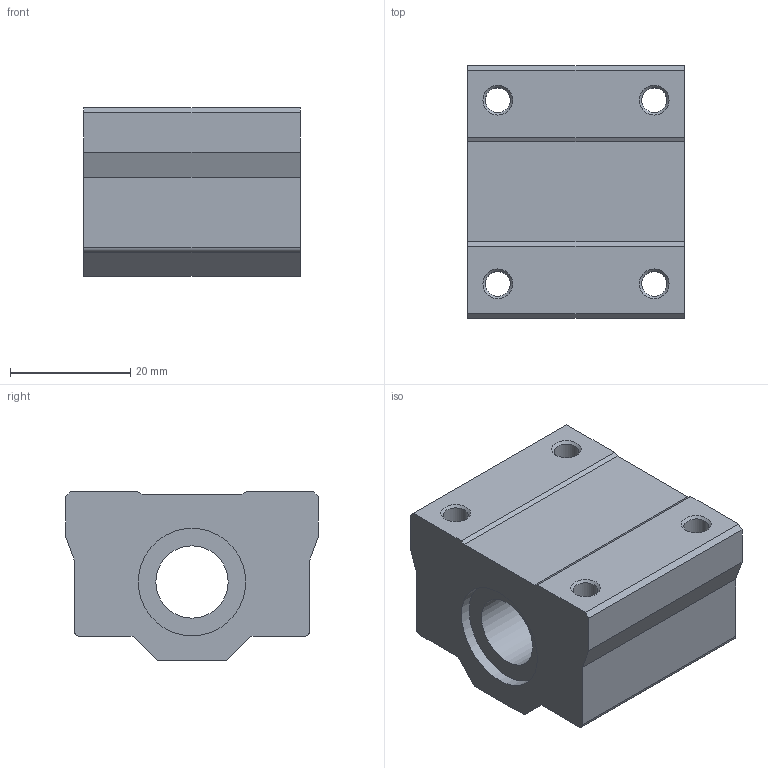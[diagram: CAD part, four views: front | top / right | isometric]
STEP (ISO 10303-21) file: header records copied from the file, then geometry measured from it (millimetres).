
FILE_DESCRIPTION( ( 'Unknown' ), '1' );
FILE_NAME( 'D:/累诀/己绕皋墨飘肺葱胶/11-04-06_档搁累己/01_府聪绢何教/SC/SC 12UUNB.stp', 'Unknown', ( 'Unknown' ), ( 'Unknown' ), 'PSStep 11.0', 'Unknown', ' ' );
FILE_SCHEMA( ( 'AUTOMOTIVE_DESIGN { 1 0 10303 214 1 1 1 1 }' ) );
Length unit declared in the file: millimetre
Products named in the file (1): 1
Bounding box: 36 x 42 x 28 mm (x, y, z)
Volume: 30823.3 mm3; surface area: 9094.6 mm2
Topology: 1 solids, 1 shells, 39 faces, 110 edges, 75 vertices
Faces by surface type: plane 22, cylinder 13, cone 4
Full cylindrical faces by diameter (mm): 4.134 x8, 12 x1, 17.85 x2
Entity records: 1426 total; most frequent: DIRECTION 188, CARTESIAN_POINT 184, ORIENTED_EDGE 164, EDGE_CURVE 82, AXIS2_PLACEMENT_3D 66, EDGE_LOOP 66, VERTEX_POINT 62, LINE 56
